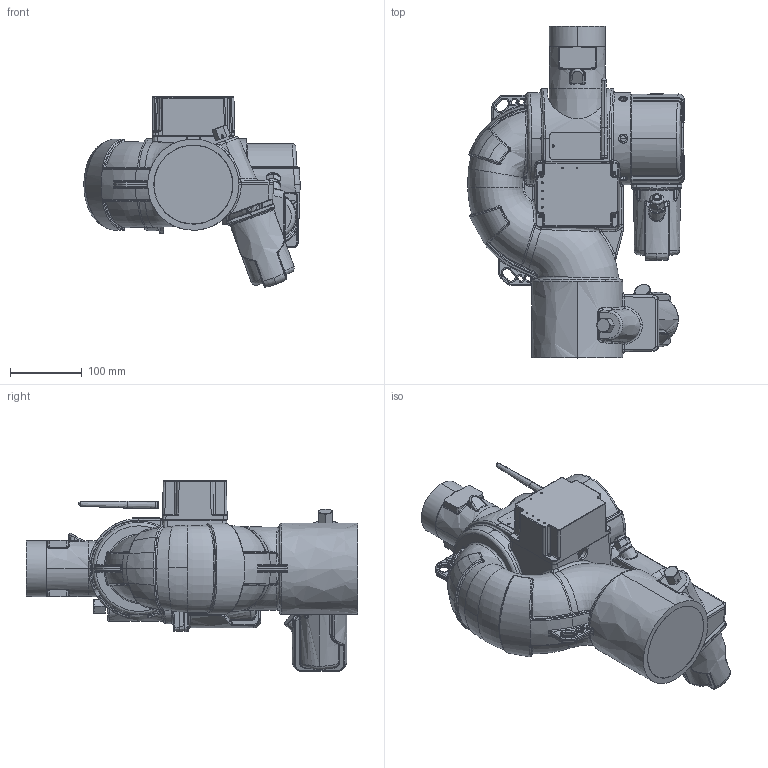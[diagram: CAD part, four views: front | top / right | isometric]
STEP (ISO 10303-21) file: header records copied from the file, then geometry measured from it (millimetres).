
FILE_DESCRIPTION (( 'STEP AP203' ), '1' );
FILE_NAME ('7200 SD - No BaseDD.STEP', '2013-10-29T14:32:41', ( 'eb' ), ( '' ), 'SwSTEP 2.0', 'SolidWorks 2013', '' );
FILE_SCHEMA (( 'CONFIG_CONTROL_DESIGN' ));
Products named in the file (1): 7200 SD - No BaseDD
Bounding box: 301.35 x 462.25 x 265.8 mm (x, y, z)
Surface area: 635189.1 mm2 (no closed solid volume)
Topology: 0 solids, 26 shells, 2278 faces, 5620 edges, 3284 vertices
Faces by surface type: bspline 1789, plane 387, cylinder 56, cone 46
Entity records: 317170 total; most frequent: CARTESIAN_POINT 280066, ORIENTED_EDGE 10923, EDGE_CURVE 5493, VERTEX_POINT 3283, DIRECTION 2858, B_SPLINE_CURVE_WITH_KNOTS 2604, EDGE_LOOP 2380, ADVANCED_FACE 2277
